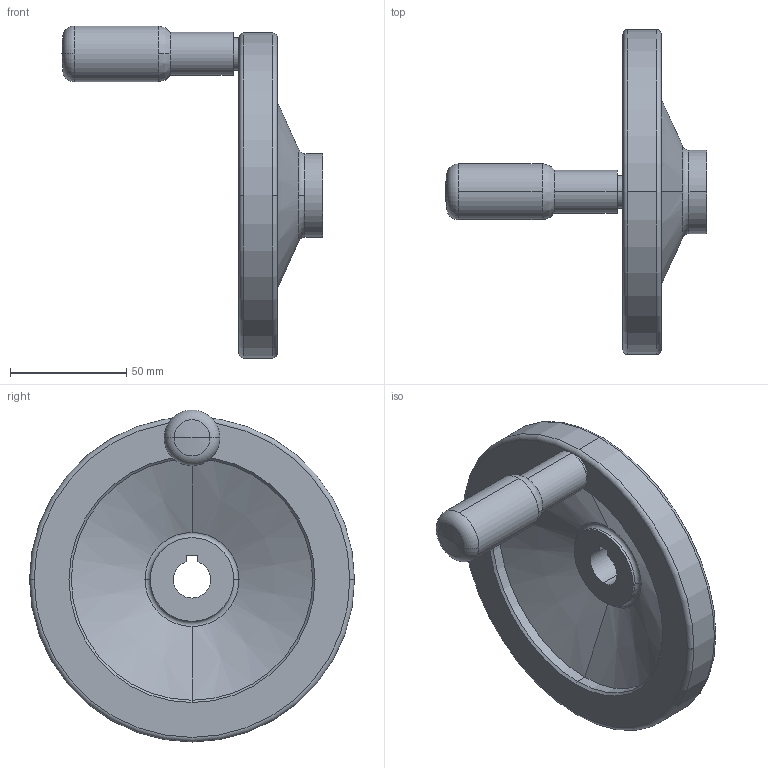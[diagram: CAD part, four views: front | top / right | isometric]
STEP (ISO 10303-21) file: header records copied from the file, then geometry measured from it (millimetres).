
FILE_DESCRIPTION (( 'STEP AP203' ), '1' );
FILE_NAME ('HR14016.STEP', '2024-01-16T10:54:36', ( '' ), ( '' ), 'SwSTEP 2.0', 'SolidWorks 2022', '' );
FILE_SCHEMA (( 'CONFIG_CONTROL_DESIGN' ));
Length unit declared in the file: millimetre
Products named in the file (1): HR14016
Bounding box: 112.43 x 140 x 143 mm (x, y, z)
Volume: 192026.9 mm3; surface area: 50696.2 mm2
Topology: 2 solids, 2 shells, 71 faces, 170 edges, 108 vertices
Faces by surface type: cylinder 24, plane 17, cone 14, torus 12, bspline 2, sphere 2
Entity records: 2224 total; most frequent: DIRECTION 411, CARTESIAN_POINT 406, ORIENTED_EDGE 340, AXIS2_PLACEMENT_3D 173, EDGE_CURVE 170, VERTEX_POINT 108, CIRCLE 103, EDGE_LOOP 80
